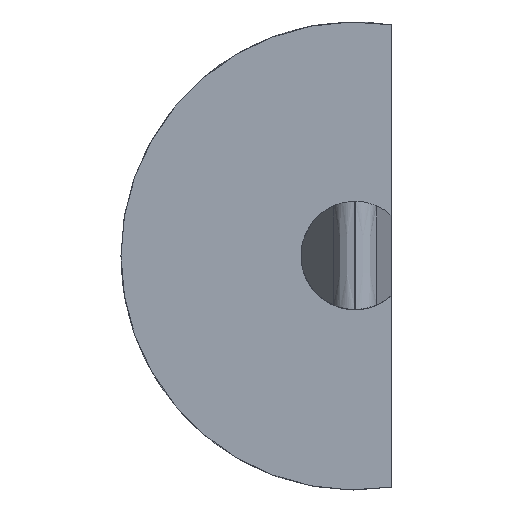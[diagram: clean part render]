
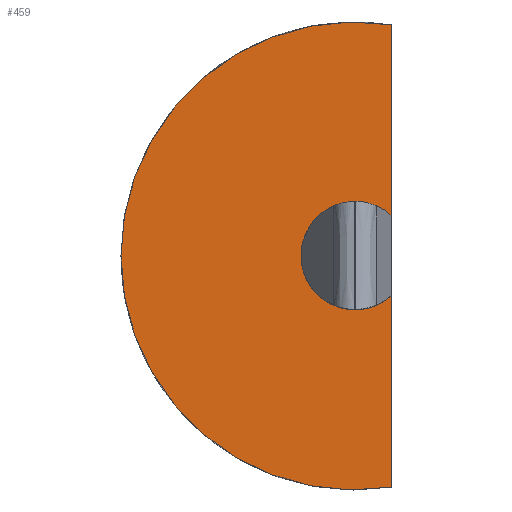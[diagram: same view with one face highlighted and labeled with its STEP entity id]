
A CAD part, top view. The second image highlights one B-rep face of the part: STEP entity #459.
In plain terms, the highlighted planar face has unit normal (0, 0, 1).
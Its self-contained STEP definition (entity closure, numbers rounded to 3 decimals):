
#27=CIRCLE('',#501,3.);
#30=CIRCLE('',#508,13.);
#82=FACE_OUTER_BOUND('',#109,.T.);
#109=EDGE_LOOP('',(#325,#326,#327,#328));
#136=LINE('',#894,#155);
#137=LINE('',#897,#156);
#155=VECTOR('',#554,10.);
#156=VECTOR('',#557,10.);
#183=VERTEX_POINT('',#629);
#184=VERTEX_POINT('',#631);
#195=VERTEX_POINT('',#893);
#196=VERTEX_POINT('',#895);
#232=EDGE_CURVE('',#184,#183,#27,.T.);
#247=EDGE_CURVE('',#183,#195,#136,.T.);
#248=EDGE_CURVE('',#195,#196,#30,.T.);
#249=EDGE_CURVE('',#196,#184,#137,.T.);
#325=ORIENTED_EDGE('',*,*,#247,.T.);
#326=ORIENTED_EDGE('',*,*,#248,.T.);
#327=ORIENTED_EDGE('',*,*,#249,.T.);
#328=ORIENTED_EDGE('',*,*,#232,.T.);
#445=PLANE('',#507);
#459=ADVANCED_FACE('',(#82),#445,.T.);
#501=AXIS2_PLACEMENT_3D('',#632,#538,#539);
#507=AXIS2_PLACEMENT_3D('',#892,#552,#553);
#508=AXIS2_PLACEMENT_3D('',#896,#555,#556);
#538=DIRECTION('center_axis',(0.,0.,-1.));
#539=DIRECTION('ref_axis',(-1.,0.,0.));
#552=DIRECTION('center_axis',(0.,0.,1.));
#553=DIRECTION('ref_axis',(1.,0.,0.));
#554=DIRECTION('',(0.,1.,0.));
#555=DIRECTION('center_axis',(0.,0.,1.));
#556=DIRECTION('ref_axis',(1.,0.,0.));
#557=DIRECTION('',(0.,1.,0.));
#629=CARTESIAN_POINT('',(2.,2.236,2.5));
#631=CARTESIAN_POINT('',(2.,-2.236,2.5));
#632=CARTESIAN_POINT('Origin',(0.,0.,2.5));
#892=CARTESIAN_POINT('Origin',(0.,0.,2.5));
#893=CARTESIAN_POINT('',(2.,12.845,2.5));
#894=CARTESIAN_POINT('',(2.,0.,2.5));
#895=CARTESIAN_POINT('',(2.,-12.845,2.5));
#896=CARTESIAN_POINT('Origin',(0.,0.,2.5));
#897=CARTESIAN_POINT('',(2.,0.,2.5));
